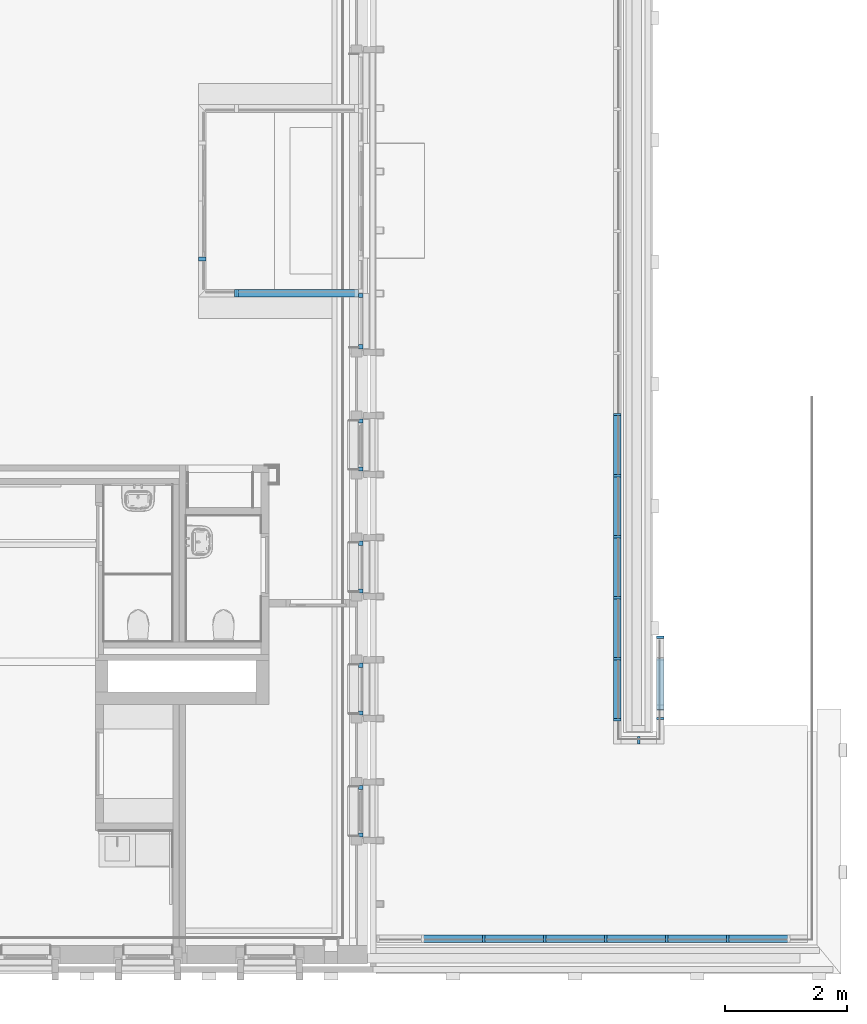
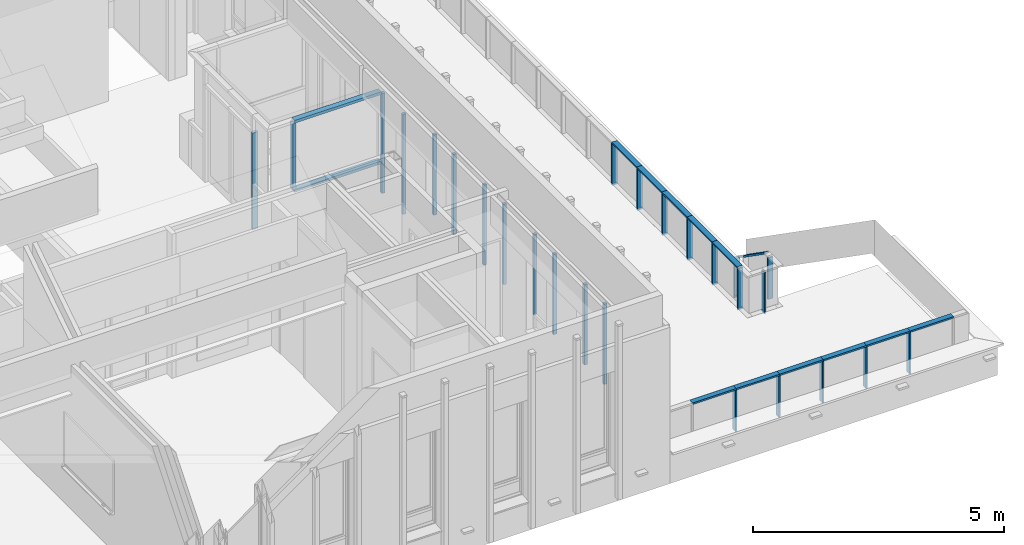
# One storey, part 3 of 118: 40 members, 11 elements without a shape of their own.
"""IFC2X3 building model written with IfcOpenShell, lengths in millimetres."""

from ifc_helpers import new_model, entity, si_unit, converted_unit, derived_unit, direction, frame, origin, origin_2d_with_axis, place, context, subcontext, project, spatial, rectangle, extrude, clip, halfspace, source, transform, mapped, material, material_list, type_object, type_shapes, element, aggregate, save


model = new_model("IFC2X3")

# Units and contexts
model_context = context("Model", 3, precision=0.01, world=origin(), true_north=direction((6.123031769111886e-17, 1.0)))
plan_context = context("Plan", 3, precision=0.01, world=origin(), true_north=direction((6.123031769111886e-17, 1.0)))
body_context = subcontext(model_context, "Body", "Model", "MODEL_VIEW")
ifc_project = project(units=[si_unit("LENGTHUNIT", "METRE", prefix="MILLI"), si_unit("AREAUNIT", "SQUARE_METRE"), si_unit("VOLUMEUNIT", "CUBIC_METRE"), converted_unit("PLANEANGLEUNIT", "DEGREE", entity("IfcRatioMeasure", 0.017453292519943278), si_unit("PLANEANGLEUNIT", "RADIAN"), dimensions=[0, 0, 0, 0, 0, 0, 0]), si_unit("MASSUNIT", "GRAM", prefix="KILO"), derived_unit("MASSDENSITYUNIT", [(si_unit("MASSUNIT", "GRAM", prefix="KILO"), 1), (si_unit("LENGTHUNIT", "METRE"), -3)]), derived_unit("IONCONCENTRATIONUNIT", [(si_unit("MASSUNIT", "GRAM", prefix="KILO"), 1), (si_unit("LENGTHUNIT", "METRE"), -3)]), derived_unit("MOMENTOFINERTIAUNIT", [(si_unit("LENGTHUNIT", "METRE"), 4)]), si_unit("TIMEUNIT", "SECOND"), si_unit("FREQUENCYUNIT", "HERTZ"), si_unit("THERMODYNAMICTEMPERATUREUNIT", "DEGREE_CELSIUS"), derived_unit("THERMALTRANSMITTANCEUNIT", [(si_unit("MASSUNIT", "GRAM", prefix="KILO"), 1), (si_unit("THERMODYNAMICTEMPERATUREUNIT", "KELVIN"), -1), (si_unit("TIMEUNIT", "SECOND"), -3)]), derived_unit("THERMALCONDUCTANCEUNIT", [(si_unit("MASSUNIT", "GRAM", prefix="KILO"), 1), (si_unit("THERMODYNAMICTEMPERATUREUNIT", "KELVIN"), -1), (si_unit("TIMEUNIT", "SECOND"), -3), (si_unit("LENGTHUNIT", "METRE"), 1)]), derived_unit("VOLUMETRICFLOWRATEUNIT", [(si_unit("LENGTHUNIT", "METRE"), 3), (si_unit("TIMEUNIT", "SECOND"), -1)]), derived_unit("MASSFLOWRATEUNIT", [(si_unit("MASSUNIT", "GRAM", prefix="KILO"), 1), (si_unit("TIMEUNIT", "SECOND"), -1)]), derived_unit("ROTATIONALFREQUENCYUNIT", [(si_unit("TIMEUNIT", "SECOND"), -1)]), si_unit("ELECTRICCURRENTUNIT", "AMPERE"), si_unit("ELECTRICVOLTAGEUNIT", "VOLT"), si_unit("POWERUNIT", "WATT"), si_unit("FORCEUNIT", "NEWTON", prefix="KILO"), si_unit("ILLUMINANCEUNIT", "LUX"), si_unit("LUMINOUSFLUXUNIT", "LUMEN"), si_unit("LUMINOUSINTENSITYUNIT", "CANDELA"), derived_unit("USERDEFINED", [(si_unit("MASSUNIT", "GRAM", prefix="KILO"), -1), (si_unit("LENGTHUNIT", "METRE"), -2), (si_unit("TIMEUNIT", "SECOND"), 3), (si_unit("LUMINOUSFLUXUNIT", "LUMEN"), 1)]), derived_unit("USERDEFINED", [(si_unit("MASSUNIT", "GRAM", prefix="KILO"), 1), (si_unit("TIMEUNIT", "SECOND"), -3), (si_unit("LENGTHUNIT", "METRE"), 3), (si_unit("ELECTRICCURRENTUNIT", "AMPERE"), -2)]), derived_unit("SOUNDPOWERUNIT", [(si_unit("MASSUNIT", "GRAM", prefix="KILO"), 1), (si_unit("TIMEUNIT", "SECOND"), -3), (si_unit("LENGTHUNIT", "METRE"), 2)]), derived_unit("SOUNDPRESSUREUNIT", [(si_unit("MASSUNIT", "GRAM", prefix="KILO"), 1), (si_unit("LENGTHUNIT", "METRE"), -1), (si_unit("TIMEUNIT", "SECOND"), -2)]), derived_unit("LINEARVELOCITYUNIT", [(si_unit("LENGTHUNIT", "METRE"), 1), (si_unit("TIMEUNIT", "SECOND"), -1)]), si_unit("PRESSUREUNIT", "PASCAL"), derived_unit("USERDEFINED", [(si_unit("MASSUNIT", "GRAM", prefix="KILO"), 1), (si_unit("LENGTHUNIT", "METRE"), -2), (si_unit("TIMEUNIT", "SECOND"), -2)]), derived_unit("LINEARFORCEUNIT", [(si_unit("MASSUNIT", "GRAM", prefix="KILO"), 1), (si_unit("TIMEUNIT", "SECOND"), -2)]), derived_unit("PLANARFORCEUNIT", [(si_unit("MASSUNIT", "GRAM", prefix="KILO"), 1), (si_unit("LENGTHUNIT", "METRE"), -1), (si_unit("TIMEUNIT", "SECOND"), -2)]), derived_unit("SPECIFICHEATCAPACITYUNIT", [(si_unit("THERMODYNAMICTEMPERATUREUNIT", "KELVIN"), -1), (si_unit("LENGTHUNIT", "METRE"), 2), (si_unit("TIMEUNIT", "SECOND"), -2)]), derived_unit("HEATINGVALUEUNIT", [(si_unit("LENGTHUNIT", "METRE"), 2), (si_unit("TIMEUNIT", "SECOND"), -2)]), derived_unit("VAPORPERMEABILITYUNIT", [(si_unit("LENGTHUNIT", "METRE"), -1), (si_unit("TIMEUNIT", "SECOND"), 1)]), derived_unit("DYNAMICVISCOSITYUNIT", [(si_unit("MASSUNIT", "GRAM", prefix="KILO"), 1), (si_unit("TIMEUNIT", "SECOND"), -1), (si_unit("LENGTHUNIT", "METRE"), -1)]), derived_unit("THERMALEXPANSIONCOEFFICIENTUNIT", [(si_unit("THERMODYNAMICTEMPERATUREUNIT", "KELVIN"), -1)]), derived_unit("MODULUSOFELASTICITYUNIT", [(si_unit("MASSUNIT", "GRAM", prefix="KILO"), 1), (si_unit("LENGTHUNIT", "METRE"), -1), (si_unit("TIMEUNIT", "SECOND"), -2)]), derived_unit("ISOTHERMALMOISTURECAPACITYUNIT", [(si_unit("LENGTHUNIT", "METRE"), 3), (si_unit("MASSUNIT", "GRAM", prefix="KILO"), -1)]), derived_unit("MOISTUREDIFFUSIVITYUNIT", [(si_unit("TIMEUNIT", "SECOND"), -1), (si_unit("LENGTHUNIT", "METRE"), 2)])], contexts=[model_context, plan_context])

# Site, building, storey
site_placement = place(None, origin())
site = spatial("IfcSite", under=ifc_project, at=site_placement, Name="Locatie", CompositionType="ELEMENT")
building_placement = place(site_placement, origin())
building = spatial("IfcBuilding", under=site, at=building_placement, Name="Bouwwerk", CompositionType="ELEMENT")
storey_placement = place(building_placement, frame((0.0, 0.0, 7800.0)))
storey = spatial("IfcBuildingStorey", under=building, at=storey_placement, Name="02 tweede verdieping", CompositionType="ELEMENT", Elevation=7800.000000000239)

# Curtain wall, member
curtain_wall_type_1 = type_object("IfcCurtainWallType", Name="Curtain Wall:NLRS_21_CW_Ontwerpkozijn_aluminium_RT72", PredefinedType="NOTDEFINED")
curtain_wall_1_placement = place(storey_placement, frame((0.0, 0.0, -7800.0)))
curtain_wall_1 = element("IfcCurtainWall", 1, at=curtain_wall_1_placement, inside=storey, type_object=curtain_wall_type_1, Name="Curtain Wall:NLRS_21_CW_Ontwerpkozijn_aluminium_RT72", ObjectType="Curtain Wall:NLRS_21_CW_Ontwerpkozijn_aluminium_RT72")
ifc_material_1 = material(Name="a_kozijn")
ifc_material_2 = material(Name="<Unnamed>")
ifc_material_list = material_list([ifc_material_2, ifc_material_1])
member_type_1 = type_object("IfcMemberType", Name="Rectangular Mullion:RT72_Hr_raam", PredefinedType="MULLION", material=ifc_material_list)
shared_shape_1 = source(origin(), body_context, "Body", "SweptSolid", [
    extrude(rectangle(XDim=71.99999999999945, YDim=68.00000000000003, at=origin_2d_with_axis()), frame((-34.0, -36.0, -1953.0), z_axis=(0.0, 0.0, 1.0), x_axis=(0.0, -1.0, 0.0)), (0.0, 0.0, 1.0), 1952.9999999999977),
])
type_shapes(member_type_1, [shared_shape_1])
member_1_placement = place(curtain_wall_1_placement, frame((34753.0, 14625.0, 10795.0), z_axis=(0.0, 0.0, 1.0), x_axis=(0.0, 1.0, 0.0)))
member_1 = element("IfcMember", 2, at=member_1_placement, type_object=member_type_1, material=ifc_material_1, Name="Rectangular Mullion:RT72_Hr_raam", ObjectType="Rectangular Mullion:RT72_Hr_raam", context=body_context, shape_type="MappedRepresentation", body=[
    mapped(shared_shape_1, transform((0.0, 0.0, 0.0), scale=1.0)),
])

curtain_wall_2_placement = place(storey_placement, frame((0.0, 0.0, -7800.0)))
curtain_wall_2 = element("IfcCurtainWall", 3, at=curtain_wall_2_placement, inside=storey, type_object=curtain_wall_type_1, Name="Curtain Wall:NLRS_21_CW_Ontwerpkozijn_aluminium_RT72", ObjectType="Curtain Wall:NLRS_21_CW_Ontwerpkozijn_aluminium_RT72")
member_2_placement = place(curtain_wall_2_placement, frame((34753.0, 16625.0, 10795.0), z_axis=(0.0, 0.0, 1.0), x_axis=(0.0, 1.0, 0.0)))
member_2 = element("IfcMember", 4, at=member_2_placement, type_object=member_type_1, material=ifc_material_1, Name="Rectangular Mullion:RT72_Hr_raam", ObjectType="Rectangular Mullion:RT72_Hr_raam", context=body_context, shape_type="MappedRepresentation", body=[
    mapped(shared_shape_1, transform((0.0, 0.0, 0.0), scale=1.0)),
])

curtain_wall_3_placement = place(storey_placement, frame((0.0, 0.0, -7800.0)))
curtain_wall_3 = element("IfcCurtainWall", 5, at=curtain_wall_3_placement, inside=storey, type_object=curtain_wall_type_1, Name="Curtain Wall:NLRS_21_CW_Ontwerpkozijn_aluminium_RT72", ObjectType="Curtain Wall:NLRS_21_CW_Ontwerpkozijn_aluminium_RT72")
member_3_placement = place(curtain_wall_3_placement, frame((34753.0, 12625.0, 10795.0), z_axis=(0.0, 0.0, 1.0), x_axis=(0.0, 1.0, 0.0)))
member_3 = element("IfcMember", 6, at=member_3_placement, type_object=member_type_1, material=ifc_material_1, Name="Rectangular Mullion:RT72_Hr_raam", ObjectType="Rectangular Mullion:RT72_Hr_raam", context=body_context, shape_type="MappedRepresentation", body=[
    mapped(shared_shape_1, transform((0.0, 0.0, 0.0), scale=1.0)),
])

curtain_wall_4_placement = place(storey_placement, frame((0.0, 0.0, -7800.0)))
curtain_wall_4 = element("IfcCurtainWall", 7, at=curtain_wall_4_placement, inside=storey, type_object=curtain_wall_type_1, Name="Curtain Wall:NLRS_21_CW_Ontwerpkozijn_aluminium_RT72", ObjectType="Curtain Wall:NLRS_21_CW_Ontwerpkozijn_aluminium_RT72")
member_4_placement = place(curtain_wall_4_placement, frame((34753.0, 18625.0, 10795.0), z_axis=(0.0, 0.0, 1.0), x_axis=(0.0, 1.0, 0.0)))
member_4 = element("IfcMember", 8, at=member_4_placement, type_object=member_type_1, material=ifc_material_1, Name="Rectangular Mullion:RT72_Hr_raam", ObjectType="Rectangular Mullion:RT72_Hr_raam", context=body_context, shape_type="MappedRepresentation", body=[
    mapped(shared_shape_1, transform((0.0, 0.0, 0.0), scale=1.0)),
])

# Member
member_type_2 = type_object("IfcMemberType", Name="Rectangular Mullion:RT72_Hl_raam", PredefinedType="MULLION", material=ifc_material_list)
shared_shape_2 = source(origin(), body_context, "Body", "SweptSolid", [
    extrude(rectangle(XDim=71.99999999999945, YDim=68.00000000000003, at=origin_2d_with_axis()), frame((-34.0, -36.0, -1953.0), z_axis=(0.0, 0.0, 1.0), x_axis=(0.0, -1.0, 0.0)), (0.0, 0.0, 1.0), 1952.9999999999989),
])
type_shapes(member_type_2, [shared_shape_2])
member_5_placement = place(curtain_wall_1_placement, frame((34753.0, 13775.0, 8842.0), z_axis=(0.0, 0.0, -1.0), x_axis=(0.0, -1.0, 0.0)))
member_5 = element("IfcMember", 9, at=member_5_placement, type_object=member_type_2, material=ifc_material_1, Name="Rectangular Mullion:RT72_Hl_raam", ObjectType="Rectangular Mullion:RT72_Hl_raam", context=body_context, shape_type="MappedRepresentation", body=[
    mapped(shared_shape_2, transform((0.0, 0.0, 0.0), scale=1.0)),
])

aggregate(curtain_wall_1, [member_1, member_5])

member_6_placement = place(curtain_wall_2_placement, frame((34753.0, 15775.0, 8842.0), z_axis=(0.0, 0.0, -1.0), x_axis=(0.0, -1.0, 0.0)))
member_6 = element("IfcMember", 10, at=member_6_placement, type_object=member_type_2, material=ifc_material_1, Name="Rectangular Mullion:RT72_Hl_raam", ObjectType="Rectangular Mullion:RT72_Hl_raam", context=body_context, shape_type="MappedRepresentation", body=[
    mapped(shared_shape_2, transform((0.0, 0.0, 0.0), scale=1.0)),
])

aggregate(curtain_wall_2, [member_2, member_6])

member_7_placement = place(curtain_wall_3_placement, frame((34753.0, 11775.0, 8842.0), z_axis=(0.0, 0.0, -1.0), x_axis=(0.0, -1.0, 0.0)))
member_7 = element("IfcMember", 11, at=member_7_placement, type_object=member_type_2, material=ifc_material_1, Name="Rectangular Mullion:RT72_Hl_raam", ObjectType="Rectangular Mullion:RT72_Hl_raam", context=body_context, shape_type="MappedRepresentation", body=[
    mapped(shared_shape_2, transform((0.0, 0.0, 0.0), scale=1.0)),
])

aggregate(curtain_wall_3, [member_3, member_7])

member_8_placement = place(curtain_wall_4_placement, frame((34753.0, 17775.0, 8842.0), z_axis=(0.0, 0.0, -1.0), x_axis=(0.0, -1.0, 0.0)))
member_8 = element("IfcMember", 12, at=member_8_placement, type_object=member_type_2, material=ifc_material_1, Name="Rectangular Mullion:RT72_Hl_raam", ObjectType="Rectangular Mullion:RT72_Hl_raam", context=body_context, shape_type="MappedRepresentation", body=[
    mapped(shared_shape_2, transform((0.0, 0.0, 0.0), scale=1.0)),
])

aggregate(curtain_wall_4, [member_4, member_8])

# Curtain wall, members
curtain_wall_5_placement = place(storey_placement, frame((0.0, 0.0, -7800.0)))
curtain_wall_5 = element("IfcCurtainWall", 13, at=curtain_wall_5_placement, inside=storey, type_object=curtain_wall_type_1, Name="Curtain Wall:NLRS_21_CW_Ontwerpkozijn_aluminium_RT72", ObjectType="Curtain Wall:NLRS_21_CW_Ontwerpkozijn_aluminium_RT72")
member_type_3 = type_object("IfcMemberType", Name="Rectangular Mullion:RT72_Hl_raam", PredefinedType="MULLION", material=ifc_material_list)
shared_shape_3 = source(origin(), body_context, "Body", "SweptSolid", [
    extrude(rectangle(XDim=71.99999999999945, YDim=68.00000000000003, at=origin_2d_with_axis()), frame((-34.0, -36.0, -2432.0), z_axis=(0.0, 0.0, 1.0), x_axis=(0.0, -1.0, 0.0)), (0.0, 0.0, 1.0), 2432.0000000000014),
])
type_shapes(member_type_3, [shared_shape_3])
member_9_placement = place(curtain_wall_5_placement, frame((34753.0, 19775.0, 8124.0), z_axis=(0.0, 0.0, -1.0), x_axis=(0.0, -1.0, 0.0)))
member_9 = element("IfcMember", 14, at=member_9_placement, type_object=member_type_3, material=ifc_material_1, Name="Rectangular Mullion:RT72_Hl_raam", ObjectType="Rectangular Mullion:RT72_Hl_raam", context=body_context, shape_type="MappedRepresentation", body=[
    mapped(shared_shape_3, transform((0.0, 0.0, 0.0), scale=1.0)),
])
member_type_4 = type_object("IfcMemberType", Name="Rectangular Mullion:RT72_Hl_raam", PredefinedType="MULLION", material=ifc_material_list)
shared_shape_4 = source(origin(), body_context, "Body", "SweptSolid", [
    extrude(rectangle(XDim=71.99999999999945, YDim=68.00000000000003, at=origin_2d_with_axis()), frame((0.0, -36.0, -2432.0), z_axis=(0.0, 0.0, 1.0), x_axis=(0.0, -1.0, 0.0)), (0.0, 0.0, 1.0), 2432.0000000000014),
])
type_shapes(member_type_4, [shared_shape_4])
member_10_placement = place(curtain_wall_5_placement, frame((34753.0, 20651.0, 8124.0), z_axis=(0.0, 0.0, -1.0), x_axis=(0.0, -1.0, 0.0)))
member_10 = element("IfcMember", 15, at=member_10_placement, type_object=member_type_4, material=ifc_material_1, Name="Rectangular Mullion:RT72_Hl_raam", ObjectType="Rectangular Mullion:RT72_Hl_raam", context=body_context, shape_type="MappedRepresentation", body=[
    mapped(shared_shape_4, transform((0.0, 0.0, 0.0), scale=1.0)),
])
aggregate(curtain_wall_5, [member_9, member_10])

# Curtain wall, member
curtain_wall_type_2 = type_object("IfcCurtainWallType", Name="Curtain Wall:32_ontwerpkozijn binnen 125*67", PredefinedType="NOTDEFINED")
curtain_wall_6_placement = place(storey_placement, frame((0.0, 0.0, -7800.0)))
curtain_wall_6 = element("IfcCurtainWall", 16, at=curtain_wall_6_placement, inside=storey, type_object=curtain_wall_type_2, Name="Curtain Wall:32_ontwerpkozijn binnen 125*67", ObjectType="Curtain Wall:32_ontwerpkozijn binnen 125*67")
ifc_material_3 = material(Name="RAL 9010 - wit")
member_type_5 = type_object("IfcMemberType", Name="Rectangular Mullion:67x125", PredefinedType="MULLION", material=ifc_material_3)
shared_shape_5 = source(origin(), body_context, "Body", "SweptSolid", [
    extrude(rectangle(XDim=125.00000000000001, YDim=67.0, at=origin_2d_with_axis()), frame((-33.5, 62.50000000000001, -2353.4999999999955), z_axis=(0.0, 0.0, 1.0), x_axis=(0.0, -1.0, 0.0)), (0.0, 0.0, 1.0), 2353.4999999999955),
])
type_shapes(member_type_5, [shared_shape_5])
member_11_placement = place(curtain_wall_6_placement, frame((32250.0, 21217.0, 7800.0), z_axis=(0.0, 0.0, -1.0), x_axis=(0.0, -1.0, 0.0)))
member_11 = element("IfcMember", 17, at=member_11_placement, type_object=member_type_5, material=ifc_material_3, Name="Rectangular Mullion:67x125", ObjectType="Rectangular Mullion:67x125", context=body_context, shape_type="MappedRepresentation", body=[
    mapped(shared_shape_5, transform((0.0, 0.0, 0.0), scale=1.0)),
])
aggregate(curtain_wall_6, [member_11])

# Curtain wall, members
curtain_wall_7_placement = place(storey_placement, frame((0.0, 0.0, -7800.0)))
curtain_wall_7 = element("IfcCurtainWall", 18, at=curtain_wall_7_placement, inside=storey, type_object=curtain_wall_type_2, Name="Curtain Wall:32_ontwerpkozijn binnen 125*67", ObjectType="Curtain Wall:32_ontwerpkozijn binnen 125*67")
member_type_6 = type_object("IfcMemberType", Name="Rectangular Mullion:67x125", PredefinedType="MULLION", material=ifc_material_3)
shared_shape_6 = source(origin(), body_context, "Body", "SweptSolid", [
    extrude(rectangle(XDim=125.00000000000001, YDim=67.0, at=origin_2d_with_axis()), frame((-33.5, -62.50000000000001, -1997.3000000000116), z_axis=(0.0, 0.0, 1.0), x_axis=(0.0, -1.0, 0.0)), (0.0, 0.0, 1.0), 1997.3000000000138),
])
type_shapes(member_type_6, [shared_shape_6])
member_12_placement = place(curtain_wall_7_placement, frame((34747.80000000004, 20750.0, 8850.0), z_axis=(1.0, 0.0, 0.0), x_axis=(0.0, 0.0, -1.0)))
member_12 = element("IfcMember", 19, at=member_12_placement, type_object=member_type_6, material=ifc_material_3, Name="Rectangular Mullion:67x125", ObjectType="Rectangular Mullion:67x125", context=body_context, shape_type="MappedRepresentation", body=[
    mapped(shared_shape_6, transform((0.0, 0.0, 0.0), scale=1.0)),
])
member_type_7 = type_object("IfcMemberType", Name="Rectangular Mullion:67x125", PredefinedType="MULLION", material=ifc_material_3)
shared_shape_7 = source(origin(), body_context, "Body", "SweptSolid", [
    extrude(rectangle(XDim=125.00000000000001, YDim=67.0, at=origin_2d_with_axis()), frame((-33.5, -62.50000000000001, -1997.3000000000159), z_axis=(0.0, 0.0, 1.0), x_axis=(0.0, -1.0, 0.0)), (0.0, 0.0, 1.0), 1997.3000000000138),
])
type_shapes(member_type_7, [shared_shape_7])
member_13_placement = place(curtain_wall_7_placement, frame((32750.500000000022, 20750.0, 10600.0), z_axis=(-1.0, 0.0, 0.0), x_axis=(0.0, 0.0, 1.0)))
member_13 = element("IfcMember", 20, at=member_13_placement, type_object=member_type_7, material=ifc_material_3, Name="Rectangular Mullion:67x125", ObjectType="Rectangular Mullion:67x125", context=body_context, shape_type="MappedRepresentation", body=[
    mapped(shared_shape_7, transform((0.0, 0.0, 0.0), scale=1.0)),
])
member_type_8 = type_object("IfcMemberType", Name="Rectangular Mullion:67x125", PredefinedType="MULLION", material=ifc_material_3)
shared_shape_8 = source(origin(), body_context, "Body", "SweptSolid", [
    extrude(rectangle(XDim=125.00000000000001, YDim=67.0, at=origin_2d_with_axis()), frame((0.0, -62.50000000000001, -1616.0), z_axis=(0.0, 0.0, 1.0), x_axis=(0.0, -1.0, 0.0)), (0.0, 0.0, 1.0), 1616.000000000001),
])
type_shapes(member_type_8, [shared_shape_8])
member_14_placement = place(curtain_wall_7_placement, frame((32750.500000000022, 20750.0, 8917.0), z_axis=(0.0, 0.0, -1.0), x_axis=(-1.0, 0.0, 0.0)))
member_14 = element("IfcMember", 21, at=member_14_placement, type_object=member_type_8, material=ifc_material_3, Name="Rectangular Mullion:67x125", ObjectType="Rectangular Mullion:67x125", context=body_context, shape_type="MappedRepresentation", body=[
    mapped(shared_shape_8, transform((0.0, 0.0, 0.0), scale=1.0)),
])
aggregate(curtain_wall_7, [member_12, member_13, member_14])

curtain_wall_type_3 = type_object("IfcCurtainWallType", Name="Curtain Wall:railing 120x40", PredefinedType="NOTDEFINED")
curtain_wall_8_placement = place(storey_placement, frame((0.0, 0.0, -7800.0)))
curtain_wall_8 = element("IfcCurtainWall", 22, at=curtain_wall_8_placement, inside=storey, type_object=curtain_wall_type_3, Name="Curtain Wall:railing 120x40", ObjectType="Curtain Wall:railing 120x40")
ifc_material_4 = material(Name="staal")
member_type_9 = type_object("IfcMemberType", Name="Rectangular Mullion:40x120 railing", PredefinedType="MULLION", material=ifc_material_4)
shared_shape_9 = source(origin(), body_context, "Body", "SweptSolid", [
    extrude(rectangle(XDim=120.0, YDim=40.0, at=origin_2d_with_axis()), frame((-20.0, 0.0, -1000.0), z_axis=(0.0, 0.0, 1.0), x_axis=(0.0, -1.0, 0.0)), (0.0, 0.0, 1.0), 1000.0000000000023),
])
type_shapes(member_type_9, [shared_shape_9])
member_15_placement = place(curtain_wall_8_placement, frame((37800.0, 10110.0, 9080.0), z_axis=(1.0, 0.0, 0.0), x_axis=(0.0, 0.0, 1.0)))
member_15 = element("IfcMember", 23, at=member_15_placement, type_object=member_type_9, material=ifc_material_4, Name="Rectangular Mullion:40x120 railing", ObjectType="Rectangular Mullion:40x120 railing", context=body_context, shape_type="MappedRepresentation", body=[
    mapped(shared_shape_9, transform((0.0, 0.0, 0.0), scale=1.0)),
])
member_16_placement = place(curtain_wall_8_placement, frame((39800.0, 10110.0, 9080.0), z_axis=(1.0, 0.0, 0.0), x_axis=(0.0, 0.0, 1.0)))
member_16 = element("IfcMember", 24, at=member_16_placement, type_object=member_type_9, material=ifc_material_4, Name="Rectangular Mullion:40x120 railing", ObjectType="Rectangular Mullion:40x120 railing", context=body_context, shape_type="MappedRepresentation", body=[
    mapped(shared_shape_9, transform((0.0, 0.0, 0.0), scale=1.0)),
])
member_17_placement = place(curtain_wall_8_placement, frame((36800.0, 10110.0, 9080.0), z_axis=(1.0, 0.0, 0.0), x_axis=(0.0, 0.0, 1.0)))
member_17 = element("IfcMember", 25, at=member_17_placement, type_object=member_type_9, material=ifc_material_4, Name="Rectangular Mullion:40x120 railing", ObjectType="Rectangular Mullion:40x120 railing", context=body_context, shape_type="MappedRepresentation", body=[
    mapped(shared_shape_9, transform((0.0, 0.0, 0.0), scale=1.0)),
])
member_18_placement = place(curtain_wall_8_placement, frame((38800.0, 10110.0, 9080.0), z_axis=(1.0, 0.0, 0.0), x_axis=(0.0, 0.0, 1.0)))
member_18 = element("IfcMember", 26, at=member_18_placement, type_object=member_type_9, material=ifc_material_4, Name="Rectangular Mullion:40x120 railing", ObjectType="Rectangular Mullion:40x120 railing", context=body_context, shape_type="MappedRepresentation", body=[
    mapped(shared_shape_9, transform((0.0, 0.0, 0.0), scale=1.0)),
])
member_19_placement = place(curtain_wall_8_placement, frame((40800.0, 10110.0, 9080.0), z_axis=(1.0, 0.0, 0.0), x_axis=(0.0, 0.0, 1.0)))
member_19 = element("IfcMember", 27, at=member_19_placement, type_object=member_type_9, material=ifc_material_4, Name="Rectangular Mullion:40x120 railing", ObjectType="Rectangular Mullion:40x120 railing", context=body_context, shape_type="MappedRepresentation", body=[
    mapped(shared_shape_9, transform((0.0, 0.0, 0.0), scale=1.0)),
])
member_20_placement = place(curtain_wall_8_placement, frame((41800.0, 10110.0, 9080.0), z_axis=(1.0, 0.0, 0.0), x_axis=(0.0, 0.0, 1.0)))
member_20 = element("IfcMember", 28, at=member_20_placement, type_object=member_type_9, material=ifc_material_4, Name="Rectangular Mullion:40x120 railing", ObjectType="Rectangular Mullion:40x120 railing", context=body_context, shape_type="MappedRepresentation", body=[
    mapped(shared_shape_9, transform((0.0, 0.0, 0.0), scale=1.0)),
])

curtain_wall_9_placement = place(storey_placement, frame((0.0, 0.0, -7800.0)))
curtain_wall_9 = element("IfcCurtainWall", 29, at=curtain_wall_9_placement, inside=storey, type_object=curtain_wall_type_3, Name="Curtain Wall:railing 120x40", ObjectType="Curtain Wall:railing 120x40")
member_21_placement = place(curtain_wall_9_placement, frame((38990.0, 15700.0, 9080.0), z_axis=(0.0, 1.0, 0.0), x_axis=(0.0, 0.0, 1.0)))
member_21 = element("IfcMember", 30, at=member_21_placement, type_object=member_type_9, material=ifc_material_4, Name="Rectangular Mullion:40x120 railing", ObjectType="Rectangular Mullion:40x120 railing", context=body_context, shape_type="MappedRepresentation", body=[
    mapped(shared_shape_9, transform((0.0, 0.0, 0.0), scale=1.0)),
])
member_22_placement = place(curtain_wall_9_placement, frame((38990.0, 17700.0, 9080.0), z_axis=(0.0, 1.0, 0.0), x_axis=(0.0, 0.0, 1.0)))
member_22 = element("IfcMember", 31, at=member_22_placement, type_object=member_type_9, material=ifc_material_4, Name="Rectangular Mullion:40x120 railing", ObjectType="Rectangular Mullion:40x120 railing", context=body_context, shape_type="MappedRepresentation", body=[
    mapped(shared_shape_9, transform((0.0, 0.0, 0.0), scale=1.0)),
])
member_23_placement = place(curtain_wall_9_placement, frame((38990.0, 16700.0, 9080.0), z_axis=(0.0, 1.0, 0.0), x_axis=(0.0, 0.0, 1.0)))
member_23 = element("IfcMember", 32, at=member_23_placement, type_object=member_type_9, material=ifc_material_4, Name="Rectangular Mullion:40x120 railing", ObjectType="Rectangular Mullion:40x120 railing", context=body_context, shape_type="MappedRepresentation", body=[
    mapped(shared_shape_9, transform((0.0, 0.0, 0.0), scale=1.0)),
])
member_24_placement = place(curtain_wall_9_placement, frame((38990.0, 18700.0, 9080.0), z_axis=(0.0, 1.0, 0.0), x_axis=(0.0, 0.0, 1.0)))
member_24 = element("IfcMember", 33, at=member_24_placement, type_object=member_type_9, material=ifc_material_4, Name="Rectangular Mullion:40x120 railing", ObjectType="Rectangular Mullion:40x120 railing", context=body_context, shape_type="MappedRepresentation", body=[
    mapped(shared_shape_9, transform((0.0, 0.0, 0.0), scale=1.0)),
])
member_25_placement = place(curtain_wall_9_placement, frame((38990.0, 14700.0, 9080.0), z_axis=(0.0, 1.0, 0.0), x_axis=(0.0, 0.0, 1.0)))
member_25 = element("IfcMember", 34, at=member_25_placement, type_object=member_type_9, material=ifc_material_4, Name="Rectangular Mullion:40x120 railing", ObjectType="Rectangular Mullion:40x120 railing", context=body_context, shape_type="MappedRepresentation", body=[
    mapped(shared_shape_9, transform((0.0, 0.0, 0.0), scale=1.0)),
])

# Member
member_type_10 = type_object("IfcMemberType", Name="Rectangular Mullion:40x120 railing", PredefinedType="MULLION", material=ifc_material_4)
shared_shape_10 = source(origin(), body_context, "Body", "SweptSolid", [
    extrude(rectangle(XDim=120.0, YDim=40.0, at=origin_2d_with_axis()), frame((0.0, 0.0, -1007.0), z_axis=(0.0, 0.0, 1.0), x_axis=(0.0, -1.0, 0.0)), (0.0, 0.0, 1.0), 1007.0000000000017),
])
type_shapes(member_type_10, [shared_shape_10])
member_26_placement = place(curtain_wall_8_placement, frame((37800.0, 10110.0, 8033.0), z_axis=(0.0, 0.0, -1.0), x_axis=(1.0, 0.0, 0.0)))
member_26 = element("IfcMember", 35, at=member_26_placement, type_object=member_type_10, material=ifc_material_4, Name="Rectangular Mullion:40x120 railing", ObjectType="Rectangular Mullion:40x120 railing", context=body_context, shape_type="MappedRepresentation", body=[
    mapped(shared_shape_10, transform((0.0, 0.0, 0.0), scale=1.0)),
])

member_27_placement = place(curtain_wall_8_placement, frame((39800.0, 10110.0, 8033.0), z_axis=(0.0, 0.0, -1.0), x_axis=(1.0, 0.0, 0.0)))
member_27 = element("IfcMember", 36, at=member_27_placement, type_object=member_type_10, material=ifc_material_4, Name="Rectangular Mullion:40x120 railing", ObjectType="Rectangular Mullion:40x120 railing", context=body_context, shape_type="MappedRepresentation", body=[
    mapped(shared_shape_10, transform((0.0, 0.0, 0.0), scale=1.0)),
])

member_28_placement = place(curtain_wall_8_placement, frame((36800.0, 10110.0, 8033.0), z_axis=(0.0, 0.0, -1.0), x_axis=(1.0, 0.0, 0.0)))
member_28 = element("IfcMember", 37, at=member_28_placement, type_object=member_type_10, material=ifc_material_4, Name="Rectangular Mullion:40x120 railing", ObjectType="Rectangular Mullion:40x120 railing", context=body_context, shape_type="MappedRepresentation", body=[
    mapped(shared_shape_10, transform((0.0, 0.0, 0.0), scale=1.0)),
])

member_29_placement = place(curtain_wall_8_placement, frame((38800.0, 10110.0, 8033.0), z_axis=(0.0, 0.0, -1.0), x_axis=(1.0, 0.0, 0.0)))
member_29 = element("IfcMember", 38, at=member_29_placement, type_object=member_type_10, material=ifc_material_4, Name="Rectangular Mullion:40x120 railing", ObjectType="Rectangular Mullion:40x120 railing", context=body_context, shape_type="MappedRepresentation", body=[
    mapped(shared_shape_10, transform((0.0, 0.0, 0.0), scale=1.0)),
])

member_30_placement = place(curtain_wall_8_placement, frame((40800.0, 10110.0, 8033.0), z_axis=(0.0, 0.0, -1.0), x_axis=(1.0, 0.0, 0.0)))
member_30 = element("IfcMember", 39, at=member_30_placement, type_object=member_type_10, material=ifc_material_4, Name="Rectangular Mullion:40x120 railing", ObjectType="Rectangular Mullion:40x120 railing", context=body_context, shape_type="MappedRepresentation", body=[
    mapped(shared_shape_10, transform((0.0, 0.0, 0.0), scale=1.0)),
])

aggregate(curtain_wall_8, [member_15, member_26, member_16, member_27, member_17, member_18, member_28, member_29, member_19, member_30, member_20])

# Curtain wall, member
curtain_wall_10_placement = place(storey_placement, frame((0.0, 0.0, -7800.0)))
curtain_wall_10 = element("IfcCurtainWall", 40, at=curtain_wall_10_placement, inside=storey, type_object=curtain_wall_type_3, Name="Curtain Wall:railing 120x40", ObjectType="Curtain Wall:railing 120x40")
member_31_placement = place(curtain_wall_10_placement, frame((39694.57048249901, 13720.0, 8033.0), z_axis=(0.0, 0.0, -1.0), x_axis=(0.0, -1.0, 0.0)))
member_31 = element("IfcMember", 41, at=member_31_placement, type_object=member_type_10, material=ifc_material_4, Name="Rectangular Mullion:40x120 railing", ObjectType="Rectangular Mullion:40x120 railing", context=body_context, shape_type="MappedRepresentation", body=[
    mapped(shared_shape_10, transform((0.0, 0.0, 0.0), scale=1.0)),
])

curtain_wall_11_placement = place(storey_placement, frame((0.0, 0.0, -7800.0)))
curtain_wall_11 = element("IfcCurtainWall", 42, at=curtain_wall_11_placement, inside=storey, type_object=curtain_wall_type_3, Name="Curtain Wall:railing 120x40", ObjectType="Curtain Wall:railing 120x40")
member_32_placement = place(curtain_wall_11_placement, frame((39342.2852412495, 13365.0, 8033.0), z_axis=(0.0, 0.0, -1.0), x_axis=(-1.0, 0.0, 0.0)))
member_32 = element("IfcMember", 43, at=member_32_placement, type_object=member_type_10, material=ifc_material_4, Name="Rectangular Mullion:40x120 railing", ObjectType="Rectangular Mullion:40x120 railing", context=body_context, shape_type="MappedRepresentation", body=[
    mapped(shared_shape_10, transform((0.0, 0.0, 0.0), scale=1.0)),
])
aggregate(curtain_wall_11, [member_32])

# Member
member_33_placement = place(curtain_wall_9_placement, frame((38990.0, 15700.0, 8033.0), z_axis=(0.0, 0.0, -1.0), x_axis=(0.0, 1.0, 0.0)))
member_33 = element("IfcMember", 44, at=member_33_placement, type_object=member_type_10, material=ifc_material_4, Name="Rectangular Mullion:40x120 railing", ObjectType="Rectangular Mullion:40x120 railing", context=body_context, shape_type="MappedRepresentation", body=[
    mapped(shared_shape_10, transform((0.0, 0.0, 0.0), scale=1.0)),
])

member_34_placement = place(curtain_wall_9_placement, frame((38990.0, 17700.0, 8033.0), z_axis=(0.0, 0.0, -1.0), x_axis=(0.0, 1.0, 0.0)))
member_34 = element("IfcMember", 45, at=member_34_placement, type_object=member_type_10, material=ifc_material_4, Name="Rectangular Mullion:40x120 railing", ObjectType="Rectangular Mullion:40x120 railing", context=body_context, shape_type="MappedRepresentation", body=[
    mapped(shared_shape_10, transform((0.0, 0.0, 0.0), scale=1.0)),
])

member_35_placement = place(curtain_wall_9_placement, frame((38990.0, 16700.0, 8033.0), z_axis=(0.0, 0.0, -1.0), x_axis=(0.0, 1.0, 0.0)))
member_35 = element("IfcMember", 46, at=member_35_placement, type_object=member_type_10, material=ifc_material_4, Name="Rectangular Mullion:40x120 railing", ObjectType="Rectangular Mullion:40x120 railing", context=body_context, shape_type="MappedRepresentation", body=[
    mapped(shared_shape_10, transform((0.0, 0.0, 0.0), scale=1.0)),
])

member_36_placement = place(curtain_wall_9_placement, frame((38990.0, 18700.0, 8033.0), z_axis=(0.0, 0.0, -1.0), x_axis=(0.0, 1.0, 0.0)))
member_36 = element("IfcMember", 47, at=member_36_placement, type_object=member_type_10, material=ifc_material_4, Name="Rectangular Mullion:40x120 railing", ObjectType="Rectangular Mullion:40x120 railing", context=body_context, shape_type="MappedRepresentation", body=[
    mapped(shared_shape_10, transform((0.0, 0.0, 0.0), scale=1.0)),
])

member_37_placement = place(curtain_wall_9_placement, frame((38990.0, 14700.0, 8033.0), z_axis=(0.0, 0.0, -1.0), x_axis=(0.0, 1.0, 0.0)))
member_37 = element("IfcMember", 48, at=member_37_placement, type_object=member_type_10, material=ifc_material_4, Name="Rectangular Mullion:40x120 railing", ObjectType="Rectangular Mullion:40x120 railing", context=body_context, shape_type="MappedRepresentation", body=[
    mapped(shared_shape_10, transform((0.0, 0.0, 0.0), scale=1.0)),
])

member_38_placement = place(curtain_wall_9_placement, frame((38990.0, 13700.0, 8033.0), z_axis=(0.0, 0.0, -1.0), x_axis=(0.0, 1.0, 0.0)))
member_38 = element("IfcMember", 49, at=member_38_placement, type_object=member_type_10, material=ifc_material_4, Name="Rectangular Mullion:40x120 railing", ObjectType="Rectangular Mullion:40x120 railing", context=body_context, shape_type="MappedRepresentation", body=[
    mapped(shared_shape_10, transform((0.0, 0.0, 0.0), scale=1.0)),
])

aggregate(curtain_wall_9, [member_21, member_33, member_22, member_34, member_23, member_24, member_35, member_36, member_25, member_37, member_38])

member_type_11 = type_object("IfcMemberType", Name="Rectangular Mullion:40x120 railing", PredefinedType="MULLION", material=ifc_material_4)
shared_shape_11 = source(origin(), body_context, "Body", "SweptSolid", [
    clip(clip(extrude(rectangle(XDim=120.0, YDim=40.0, at=origin_2d_with_axis()), frame((-20.0, 0.0, -1000.1630540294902), z_axis=(0.0, 0.0, 1.0), x_axis=(0.0, -1.0, 0.0)), (0.0, 0.0, 1.0), 1000.1630540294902), halfspace(frame((0.0, -304.8, -1000.1630540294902), z_axis=(-0.8867228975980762, 0.0, -0.4623013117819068), x_axis=(-0.4623013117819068, 0.0, 0.8867228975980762)), False)), halfspace(frame((0.0, -304.8, 0.0), z_axis=(-0.4623013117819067, 0.0, 0.8867228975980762), x_axis=(-0.8867228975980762, 0.0, -0.4623013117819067)), False)),
])
type_shapes(member_type_11, [shared_shape_11])
member_39_placement = place(curtain_wall_10_placement, frame((39694.57048249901, 15070.0, 8238.486263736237), z_axis=(0.0, 0.0, 1.0), x_axis=(0.0, 1.0, 0.0)))
member_39 = element("IfcMember", 50, at=member_39_placement, type_object=member_type_11, material=ifc_material_4, Name="Rectangular Mullion:40x120 railing", ObjectType="Rectangular Mullion:40x120 railing", context=body_context, shape_type="MappedRepresentation", body=[
    mapped(shared_shape_11, transform((0.0, 0.0, 0.0), scale=1.0)),
])

member_type_12 = type_object("IfcMemberType", Name="Rectangular Mullion:40x120 railing", PredefinedType="MULLION", material=ifc_material_4)
shared_shape_12 = source(origin(), body_context, "Body", "SweptSolid", [
    clip(extrude(rectangle(XDim=120.0, YDim=40.0, at=origin_2d_with_axis()), frame((-20.0, 0.0, -1018.4587196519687), z_axis=(0.0, 0.0, 1.0), x_axis=(0.0, -1.0, 0.0)), (0.0, 0.0, 1.0), 1018.4587196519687), halfspace(frame((0.0, -304.8, 0.0), z_axis=(-0.300111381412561, 0.0, 0.953904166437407), x_axis=(-0.953904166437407, 0.0, -0.300111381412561)), False)),
])
type_shapes(member_type_12, [shared_shape_12])
member_40_placement = place(curtain_wall_10_placement, frame((39694.57048249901, 13865.0, 9080.0), z_axis=(0.0, -0.8198663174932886, 0.5725549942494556), x_axis=(0.0, 0.5725549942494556, 0.8198663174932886)))
member_40 = element("IfcMember", 51, at=member_40_placement, type_object=member_type_12, material=ifc_material_4, Name="Rectangular Mullion:40x120 railing", ObjectType="Rectangular Mullion:40x120 railing", context=body_context, shape_type="MappedRepresentation", body=[
    mapped(shared_shape_12, transform((0.0, 0.0, 0.0), scale=1.0)),
])

aggregate(curtain_wall_10, [member_39, member_31, member_40])

save(model, "model.ifc")
